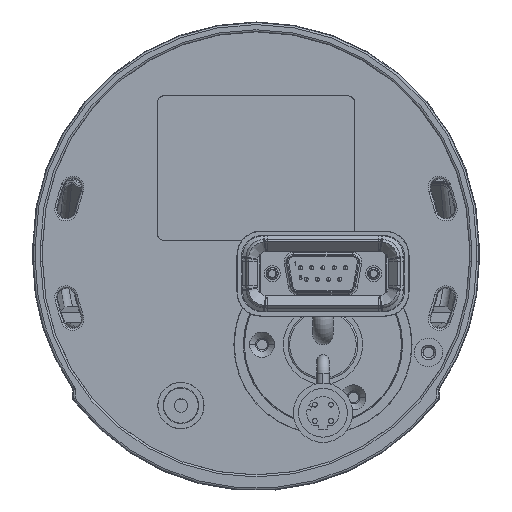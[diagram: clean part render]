
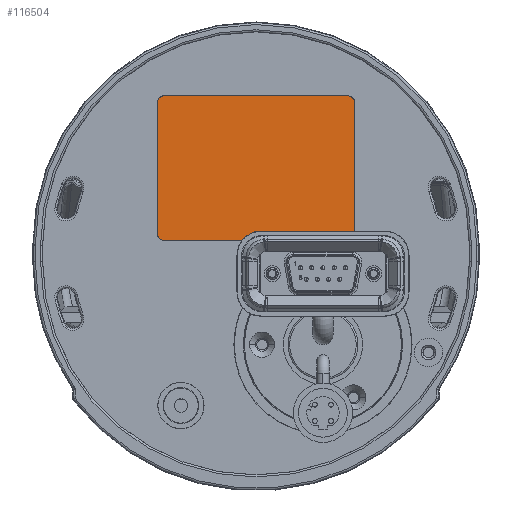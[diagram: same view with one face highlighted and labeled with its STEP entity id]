
A CAD part, front view. The second image highlights one B-rep face of the part: STEP entity #116504.
In plain terms, the highlighted planar face has unit normal (0, -1, 0).
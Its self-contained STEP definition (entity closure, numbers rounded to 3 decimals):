
#54252=CARTESIAN_POINT('',(22.371,-23.5,
-14.87));
#54253=CARTESIAN_POINT('',(22.588,-23.5,
-14.87));
#54254=CARTESIAN_POINT('',(22.999,-23.5,
-14.803));
#54255=CARTESIAN_POINT('',(23.567,-23.5,
-14.514));
#54256=CARTESIAN_POINT('',(24.014,-23.5,
-14.067));
#54257=CARTESIAN_POINT('',(24.303,-23.5,
-13.498));
#54258=CARTESIAN_POINT('',(24.37,-23.5,
-13.088));
#54259=CARTESIAN_POINT('',(24.37,-23.5,
-12.871));
#54261=DIRECTION('',(1.,0.,0.));
#54262=VECTOR('',#54261,44.742);
#54263=CARTESIAN_POINT('',(-22.371,-23.5,
-14.87));
#54264=LINE('',#54263,#54262);
#54265=CARTESIAN_POINT('',(-23.785,-23.5,-14.285));
#54266=CARTESIAN_POINT('',(-23.394,-23.5,-14.675));
#54267=CARTESIAN_POINT('',(-22.923,-23.5,-14.87));
#54268=CARTESIAN_POINT('',(-22.371,-23.5,-14.87));
#54270=CARTESIAN_POINT('',(-24.37,-23.5,-12.871));
#54271=CARTESIAN_POINT('',(-24.37,-23.5,-13.423));
#54272=CARTESIAN_POINT('',(-24.175,-23.5,-13.894));
#54273=CARTESIAN_POINT('',(-23.785,-23.5,-14.285));
#54275=DIRECTION('',(0.,0.,-1.));
#54276=VECTOR('',#54275,31.742);
#54277=CARTESIAN_POINT('',(-24.37,-23.5,
18.871));
#54278=LINE('',#54277,#54276);
#54279=CARTESIAN_POINT('',(-23.785,-23.5,20.285));
#54280=CARTESIAN_POINT('',(-23.911,-23.5,20.159));
#54281=CARTESIAN_POINT('',(-24.121,-23.5,
19.884));
#54282=CARTESIAN_POINT('',(-24.324,-23.5,
19.392));
#54283=CARTESIAN_POINT('',(-24.37,-23.5,
19.049));
#54284=CARTESIAN_POINT('',(-24.37,-23.5,
18.871));
#54286=CARTESIAN_POINT('',(-22.371,-23.5,20.87));
#54287=CARTESIAN_POINT('',(-22.923,-23.5,20.87));
#54288=CARTESIAN_POINT('',(-23.394,-23.5,20.675));
#54289=CARTESIAN_POINT('',(-23.785,-23.5,20.285));
#54291=DIRECTION('',(-1.,0.,0.));
#54292=VECTOR('',#54291,44.742);
#54293=CARTESIAN_POINT('',(22.371,-23.5,
20.87));
#54294=LINE('',#54293,#54292);
#54295=CARTESIAN_POINT('',(22.371,-23.5,
20.87));
#54296=CARTESIAN_POINT('',(22.587,-23.5,
20.87));
#54297=CARTESIAN_POINT('',(22.996,-23.5,
20.804));
#54298=CARTESIAN_POINT('',(23.566,-23.5,
20.515));
#54299=CARTESIAN_POINT('',(24.015,-23.5,
20.066));
#54300=CARTESIAN_POINT('',(24.304,-23.5,
19.496));
#54301=CARTESIAN_POINT('',(24.37,-23.5,
19.087));
#54302=CARTESIAN_POINT('',(24.37,-23.5,
18.871));
#54308=DIRECTION('',(0.,0.,-1.));
#54309=VECTOR('',#54308,31.742);
#54310=CARTESIAN_POINT('',(24.37,-23.5,
18.871));
#54311=LINE('',#54310,#54309);
#61540=CARTESIAN_POINT('',(24.37,-23.5,
18.871));
#61541=CARTESIAN_POINT('',(24.37,-23.5,
-12.871));
#61542=VERTEX_POINT('',#61540);
#61543=VERTEX_POINT('',#61541);
#61619=VERTEX_POINT('',#54295);
#61620=VERTEX_POINT('',#54252);
#61649=CARTESIAN_POINT('',(-22.371,-23.5,
20.87));
#61650=VERTEX_POINT('',#61649);
#61654=CARTESIAN_POINT('',(-22.371,-23.5,
-14.87));
#61655=VERTEX_POINT('',#61654);
#61699=VERTEX_POINT('',#54289);
#61701=VERTEX_POINT('',#54265);
#61718=VERTEX_POINT('',#54284);
#61721=VERTEX_POINT('',#54270);
#116478=CARTESIAN_POINT('',(-7.085,-23.5,-11.457));
#116479=DIRECTION('',(0.,-1.,0.));
#116480=DIRECTION('',(1.,0.,0.));
#116481=AXIS2_PLACEMENT_3D('',#116478,#116479,#116480);
#116482=PLANE('',#116481);
#116484=ORIENTED_EDGE('',*,*,#116483,.T.);
#116486=ORIENTED_EDGE('',*,*,#116485,.T.);
#116487=ORIENTED_EDGE('',*,*,#116468,.F.);
#116489=ORIENTED_EDGE('',*,*,#116488,.F.);
#116491=ORIENTED_EDGE('',*,*,#116490,.F.);
#116493=ORIENTED_EDGE('',*,*,#116492,.F.);
#116495=ORIENTED_EDGE('',*,*,#116494,.F.);
#116497=ORIENTED_EDGE('',*,*,#116496,.F.);
#116499=ORIENTED_EDGE('',*,*,#116498,.F.);
#116501=ORIENTED_EDGE('',*,*,#116500,.F.);
#116502=EDGE_LOOP('',(#116484,#116486,#116487,#116489,#116491,#116493,#116495,
#116497,#116499,#116501));
#116503=FACE_OUTER_BOUND('',#116502,.F.);
#54260=B_SPLINE_CURVE_WITH_KNOTS('',3,(#54252,#54253,#54254,#54255,#54256,
#54257,#54258,#54259),.UNSPECIFIED.,.F.,.F.,(4,1,1,1,1,4),(0.,0.2,0.4,
0.6,0.8,1.),.UNSPECIFIED.);
#54269=B_SPLINE_CURVE_WITH_KNOTS('',3,(#54265,#54266,#54267,#54268),
.UNSPECIFIED.,.F.,.F.,(4,4),(0.,1.),.UNSPECIFIED.);
#54274=B_SPLINE_CURVE_WITH_KNOTS('',3,(#54270,#54271,#54272,#54273),
.UNSPECIFIED.,.F.,.F.,(4,4),(0.,1.),.UNSPECIFIED.);
#54285=B_SPLINE_CURVE_WITH_KNOTS('',3,(#54279,#54280,#54281,#54282,#54283,
#54284),.UNSPECIFIED.,.F.,.F.,(4,1,1,4),(0.,0.333,
0.667,1.),.UNSPECIFIED.);
#54290=B_SPLINE_CURVE_WITH_KNOTS('',3,(#54286,#54287,#54288,#54289),
.UNSPECIFIED.,.F.,.F.,(4,4),(0.,1.),.UNSPECIFIED.);
#54303=B_SPLINE_CURVE_WITH_KNOTS('',3,(#54295,#54296,#54297,#54298,#54299,
#54300,#54301,#54302),.UNSPECIFIED.,.F.,.F.,(4,1,1,1,1,4),(0.,0.2,0.4,
0.6,0.8,1.),.UNSPECIFIED.);
#116468=EDGE_CURVE('',#61620,#61543,#54260,.T.);
#116483=EDGE_CURVE('',#61619,#61542,#54303,.T.);
#116485=EDGE_CURVE('',#61542,#61543,#54311,.T.);
#116488=EDGE_CURVE('',#61655,#61620,#54264,.T.);
#116490=EDGE_CURVE('',#61701,#61655,#54269,.T.);
#116492=EDGE_CURVE('',#61721,#61701,#54274,.T.);
#116494=EDGE_CURVE('',#61718,#61721,#54278,.T.);
#116496=EDGE_CURVE('',#61699,#61718,#54285,.T.);
#116498=EDGE_CURVE('',#61650,#61699,#54290,.T.);
#116500=EDGE_CURVE('',#61619,#61650,#54294,.T.);
#116504=ADVANCED_FACE('',(#116503),#116482,.T.);
